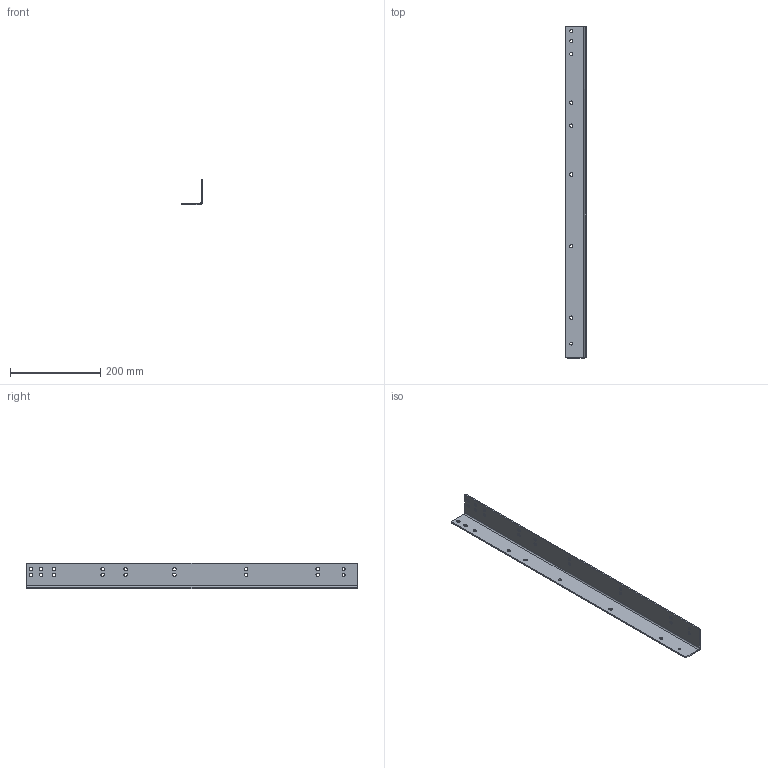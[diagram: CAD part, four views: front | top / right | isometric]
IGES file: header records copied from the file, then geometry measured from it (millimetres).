
Global section: file name: WI-AU_2257619-735_links; native system: Autodesk Inventor 2015; preprocessor: unknown; author: MelKon; date: 20171024.132336; units: millimetre
Bounding box: 46.2 x 735 x 55.9 mm (x, y, z)
Volume: 212604.7 mm3; surface area: 147735.6 mm2
Topology: 1 solids, 1 shells, 113 faces, 333 edges, 222 vertices
Faces by surface type: bspline 113
